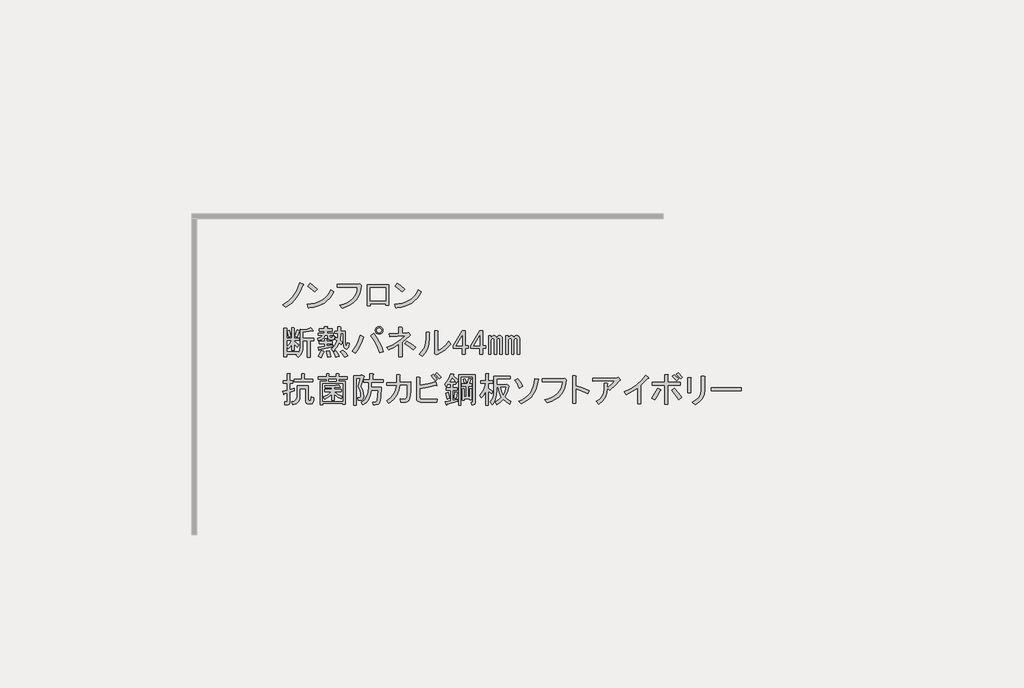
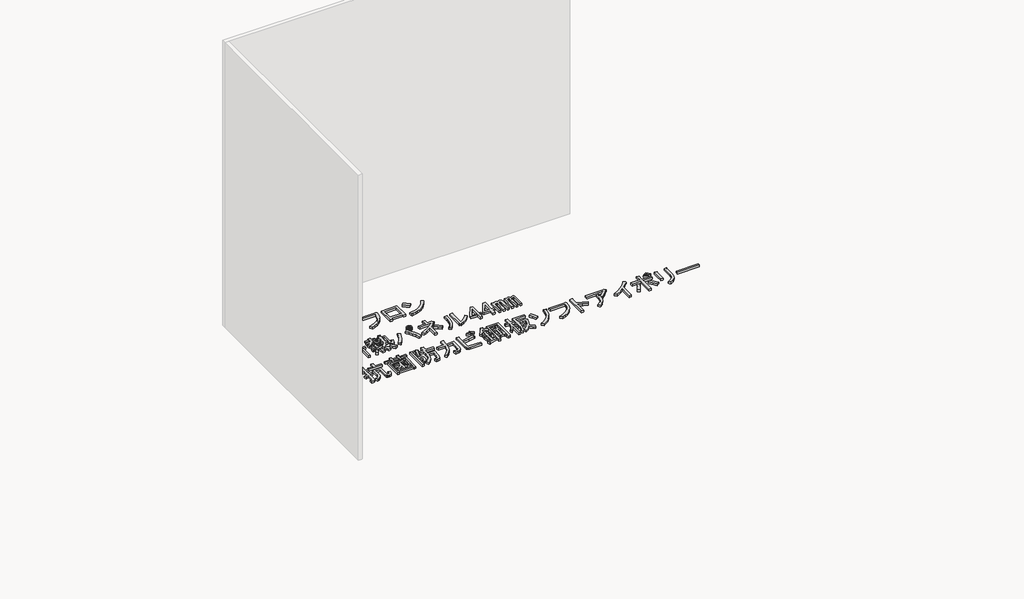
# One storey, part 72 of 117: 1 proxy.
"""IFC4 building model written with IfcOpenShell, lengths in millimetres."""

from ifc_helpers import new_model, si_unit, frame, origin, place, context, project, spatial, polyline, outline, extrude, element, save

model = new_model("IFC4")

# Units and contexts
model_context = context("Model", 3, world=origin())
ifc_project = project(units=[si_unit("LENGTHUNIT", "METRE", prefix="MILLI")], contexts=[model_context])

# Site, building, storey
site = spatial("IfcSite", under=ifc_project)
building = spatial("IfcBuilding", under=site)
storey = spatial("IfcBuildingStorey", under=building, Name="レベル 1", Elevation=500.0)

# Proxy
placement = place(None, origin())
element("IfcBuildingElementProxy", 1, Name="200㎜\u3000MS Pゴシック", ObjectType="200㎜\u3000MS Pゴシック", at=placement, inside=storey, context=model_context, shape_type="SweptSolid", body=[
    extrude(outline(polyline([(-7056.3293015, 11392.9503118), (-7081.9047498, 11333.1784775), (-7110.353844, 11287.2001434), (-7152.0217093, 11241.7965385), (-7201.1610538, 11204.439142), (-7228.7480543, 11226.2788507), (-7181.0455327, 11256.7394971), (-7141.3892195, 11295.2463519), (-7124.0036619, 11319.1694538), (-7108.6296565, 11347.2593423), (-7095.2672031, 11379.5160173), (-7083.9163019, 11415.9394788), (-7052.8809264, 11402.1459786), (-7049.7199159, 11397.5481452), (-7056.3293015, 11392.9503118)])), frame((0.0, 0.0, 500.0), z_axis=(0.0, 0.0, 1.0), x_axis=(1.0, 0.0, 0.0)), (0.0, 0.0, 1.0), 25.0),
    extrude(outline(polyline([(-6956.6022948, 11337.7763109), (-7015.2246708, 11384.9041033), (-6995.6838788, 11409.0427287), (-6968.3842429, 11389.2145721), (-6934.7625862, 11359.6160196), (-6956.6022948, 11337.7763109)])), frame((0.0, 0.0, 500.0), z_axis=(0.0, 0.0, 1.0), x_axis=(1.0, 0.0, 0.0)), (0.0, 0.0, 1.0), 25.0),
    extrude(outline(polyline([(-6794.5286672, 11337.7763109), (-6811.052131, 11308.034076), (-6830.1618761, 11282.0275808), (-6851.8579025, 11259.7568252), (-6876.1402102, 11241.2218093), (-6903.0087992, 11226.422533), (-6932.4636694, 11215.3589964), (-6964.504821, 11208.0311994), (-6999.1322539, 11204.439142), (-7004.8795456, 11196.3929336), (-7010.6268374, 11202.1402253), (-7019.8225042, 11232.0261425), (-6983.9917321, 11234.7022252), (-6951.2142088, 11241.0062859), (-6921.4899342, 11250.9383244), (-6894.8189084, 11264.4983409), (-6871.2011313, 11281.6863354), (-6850.636603, 11302.5023077), (-6833.1253234, 11326.946258), (-6818.6672926, 11355.0181862), (-6794.5286672, 11337.7763109)])), frame((0.0, 0.0, 500.0), z_axis=(0.0, 0.0, 1.0), x_axis=(1.0, 0.0, 0.0)), (0.0, 0.0, 1.0), 25.0),
    extrude(outline(polyline([(-6743.7685864, 11222.8304757), (-6709.985287, 11232.5110702), (-6680.4765359, 11244.8857078), (-6655.242333, 11259.9543884), (-6634.2826783, 11277.717112), (-6617.597572, 11298.1738786), (-6605.1870138, 11321.3246882), (-6597.0510039, 11347.1695409), (-6593.1895423, 11375.7084365), (-6765.6082951, 11375.7084365), (-6765.6082951, 11400.9965202), (-6590.8906256, 11400.9965202), (-6574.7982086, 11404.4448953), (-6562.1541668, 11392.9503118), (-6565.674383, 11356.4550091), (-6573.9361149, 11323.4080815), (-6586.9393625, 11293.8095289), (-6604.6841258, 11267.6593514), (-6627.1704048, 11244.957549), (-6654.3981995, 11225.7041216), (-6686.3675099, 11209.8990692), (-6723.078336, 11197.5423919), (-6743.7685864, 11222.8304757)])), frame((0.0, 0.0, 500.0), z_axis=(0.0, 0.0, 1.0), x_axis=(1.0, 0.0, 0.0)), (0.0, 0.0, 1.0), 25.0),
    extrude(outline(polyline([(-6329.044013, 11223.979934), (-6355.4815551, 11223.979934), (-6355.4815551, 11236.6239759), (-6483.0714321, 11236.6239759), (-6483.0714321, 11218.2326423), (-6509.5089742, 11218.2326423), (-6509.5089742, 11397.5481452), (-6329.044013, 11397.5481452), (-6329.044013, 11223.979934)]), holes=[polyline([(-6483.0714321, 11372.2600614), (-6483.0714321, 11261.9120596), (-6355.4815551, 11261.9120596), (-6355.4815551, 11372.2600614), (-6483.0714321, 11372.2600614)])]), frame((0.0, 0.0, 500.0), z_axis=(0.0, 0.0, 1.0), x_axis=(1.0, 0.0, 0.0)), (0.0, 0.0, 1.0), 25.0),
    extrude(outline(polyline([(-6052.9900951, 11337.7763109), (-6069.5135589, 11308.034076), (-6088.623304, 11282.0275808), (-6110.3193304, 11259.7568252), (-6134.6016381, 11241.2218093), (-6161.4702271, 11226.422533), (-6190.9250974, 11215.3589964), (-6222.9662489, 11208.0311994), (-6257.5936818, 11204.439142), (-6263.3409736, 11196.3929336), (-6269.0882653, 11202.1402253), (-6278.2839321, 11232.0261425), (-6242.4531601, 11234.7022252), (-6209.6756367, 11241.0062859), (-6179.9513622, 11250.9383244), (-6153.2803363, 11264.4983409), (-6129.6625593, 11281.6863354), (-6109.0980309, 11302.5023077), (-6091.5867514, 11326.946258), (-6077.1287205, 11355.0181862), (-6052.9900951, 11337.7763109)])), frame((0.0, 0.0, 500.0), z_axis=(0.0, 0.0, 1.0), x_axis=(1.0, 0.0, 0.0)), (0.0, 0.0, 1.0), 25.0),
    extrude(outline(polyline([(-6215.0637228, 11337.7763109), (-6273.6860987, 11384.9041033), (-6254.1453067, 11409.0427287), (-6226.8456709, 11389.2145721), (-6193.2240141, 11359.6160196), (-6215.0637228, 11337.7763109)])), frame((0.0, 0.0, 500.0), z_axis=(0.0, 0.0, 1.0), x_axis=(1.0, 0.0, 0.0)), (0.0, 0.0, 1.0), 25.0),
    extrude(outline(polyline([(-7122.9978859, 10960.7654779), (-7105.7560106, 11013.6405621), (-7085.0657603, 11007.8932704), (-7083.3415727, 11004.7322599), (-7087.364677, 11002.1459786), (-7104.6065522, 10953.8687278), (-7122.9978859, 10960.7654779)])), frame((0.0, 0.0, 500.0), z_axis=(0.0, 0.0, 1.0), x_axis=(1.0, 0.0, 0.0)), (0.0, 0.0, 1.0), 25.0),
    extrude(outline(polyline([(-6968.9704667, 11009.0427287), (-6970.6946542, 11004.4448953), (-6978.1661335, 11006.743812), (-7055.1798431, 10994.0997701), (-7055.1798431, 10944.673061), (-6963.2231749, 10944.673061), (-6963.2231749, 10922.8333523), (-6994.2585505, 10922.8333523), (-6994.2585505, 10782.5994334), (-7017.2477175, 10782.5994334), (-7017.2477175, 10922.8333523), (-7055.1798431, 10922.8333523), (-7055.1798431, 10873.4066432), (-7057.7661244, 10845.6041193), (-7065.5249683, 10820.8189236), (-7078.4563747, 10799.051056), (-7096.5603438, 10780.3005167), (-7113.8022191, 10799.8413086), (-7103.4570939, 10809.0369755), (-7193.1148454, 10809.0369755), (-7193.1148454, 10787.1972668), (-7216.1040124, 10787.1972668), (-7216.1040124, 11026.284604), (-7194.2643037, 11026.284604), (-7189.3791057, 11023.9856873), (-7193.1148454, 11019.3878539), (-7193.1148454, 10943.5236026), (-7150.5848863, 10943.5236026), (-7150.5848863, 11030.8824374), (-7132.1935527, 11030.8824374), (-7127.3083547, 11028.5835207), (-7131.0440943, 11023.9856873), (-7131.0440943, 10943.5236026), (-7087.364677, 10943.5236026), (-7087.364677, 10925.132269), (-7131.0440943, 10925.132269), (-7131.0440943, 10915.9366022), (-7090.813052, 10889.4990601), (-7104.6065522, 10867.6593514), (-7131.0440943, 10894.0968935), (-7131.0440943, 10841.2218093), (-7150.5848863, 10841.2218093), (-7150.5848863, 10889.4990601), (-7163.8036574, 10869.6709035), (-7178.1718868, 10853.8658512), (-7190.8159287, 10872.2571848), (-7168.97622, 10896.3958102), (-7151.7343447, 10925.132269), (-7193.1148454, 10925.132269), (-7193.1148454, 10830.8766841), (-7095.4108854, 10830.8766841), (-7095.4108854, 10817.0831839), (-7082.479479, 10841.2218093), (-7078.1690102, 10874.5561015), (-7078.1690102, 11019.3878539), (-7056.3293015, 11013.6405621), (-7020.1213634, 11021.1120414), (-6989.660717, 11034.3308125), (-6968.9704667, 11009.0427287)])), frame((0.0, 0.0, 500.0), z_axis=(0.0, 0.0, 1.0), x_axis=(1.0, 0.0, 0.0)), (0.0, 0.0, 1.0), 25.0),
    extrude(outline(polyline([(-7177.0224284, 10952.7192695), (-7189.6664703, 11003.2954369), (-7170.1256783, 11010.1921871), (-7162.3668344, 10986.0535617), (-7157.4816364, 10959.6160196), (-7177.0224284, 10952.7192695)])), frame((0.0, 0.0, 500.0), z_axis=(0.0, 0.0, 1.0), x_axis=(1.0, 0.0, 0.0)), (0.0, 0.0, 1.0), 25.0),
    extrude(outline(polyline([(-6878.1632569, 10832.0261425), (-6874.7148818, 10827.1409445), (-6880.4621736, 10823.979934), (-6890.2325696, 10798.4044857), (-6901.1524239, 10779.1510583), (-6924.141591, 10790.6456418), (-6911.4975491, 10814.209538), (-6901.1524239, 10841.2218093), (-6878.1632569, 10832.0261425)])), frame((0.0, 0.0, 500.0), z_axis=(0.0, 0.0, 1.0), x_axis=(1.0, 0.0, 0.0)), (0.0, 0.0, 1.0), 25.0),
    extrude(outline(polyline([(-6833.3343812, 10836.6239759), (-6823.2766206, 10809.32434), (-6818.3914226, 10787.1972668), (-6847.1278814, 10781.449975), (-6849.7141627, 10803.0023191), (-6857.4730066, 10833.1756008), (-6833.3343812, 10836.6239759)])), frame((0.0, 0.0, 500.0), z_axis=(0.0, 0.0, 1.0), x_axis=(1.0, 0.0, 0.0)), (0.0, 0.0, 1.0), 25.0),
    extrude(outline(polyline([(-6718.388546, 10842.3712677), (-6693.6751914, 10821.1062881), (-6674.7091286, 10796.3929336), (-6701.1466707, 10781.449975), (-6720.4000981, 10811.0485276), (-6739.0787963, 10830.8766841), (-6718.388546, 10842.3712677)])), frame((0.0, 0.0, 500.0), z_axis=(0.0, 0.0, 1.0), x_axis=(1.0, 0.0, 0.0)), (0.0, 0.0, 1.0), 25.0),
    extrude(outline(polyline([(-6777.0109219, 10783.7488917), (-6785.344495, 10808.4622463), (-6798.8506306, 10829.7272258), (-6778.1603803, 10837.7734343), (-6761.2058696, 10816.2210902), (-6749.4239215, 10792.9445585), (-6777.0109219, 10783.7488917)])), frame((0.0, 0.0, 500.0), z_axis=(0.0, 0.0, 1.0), x_axis=(1.0, 0.0, 0.0)), (0.0, 0.0, 1.0), 25.0),
    extrude(outline(polyline([(-6916.0953825, 10846.9691011), (-6918.1069346, 10842.0839031), (-6921.8426743, 10843.520726), (-6927.589966, 10867.6593514), (-6872.4159651, 10875.7055599), (-6872.4159651, 10898.6947269), (-6916.0953825, 10898.6947269), (-6916.0953825, 10917.0860605), (-6872.4159651, 10917.0860605), (-6872.4159651, 10940.0752276), (-6854.0246315, 10940.0752276), (-6849.1394335, 10937.7763109), (-6852.8751732, 10933.1784775), (-6852.8751732, 10917.0860605), (-6808.0462974, 10917.0860605), (-6808.0462974, 10898.6947269), (-6852.8751732, 10898.6947269), (-6852.8751732, 10879.1539349), (-6802.2990057, 10888.3496017), (-6802.2990057, 10872.2571848), (-6916.0953825, 10846.9691011)])), frame((0.0, 0.0, 500.0), z_axis=(0.0, 0.0, 1.0), x_axis=(1.0, 0.0, 0.0)), (0.0, 0.0, 1.0), 25.0),
    extrude(outline(polyline([(-6845.978423, 10968.8116864), (-6871.2665068, 10968.8116864), (-6875.8643402, 10951.3542877), (-6886.2094654, 10938.0636755), (-6902.3018823, 10928.9398498), (-6924.141591, 10923.9828107), (-6928.7394244, 10943.5236026), (-6903.4513406, 10952.1445403), (-6895.9798614, 10959.4723373), (-6891.9567571, 10968.8116864), (-6927.589966, 10968.8116864), (-6927.589966, 10987.20302), (-6873.5654235, 10987.20302), (-6873.5654235, 11004.4448953), (-6917.2448409, 11004.4448953), (-6917.2448409, 11022.8362289), (-6873.5654235, 11022.8362289), (-6873.5654235, 11041.2275626), (-6851.7257148, 11041.2275626), (-6846.8405168, 11038.9286459), (-6850.5762564, 11034.3308125), (-6850.5762564, 11022.8362289), (-6808.0462974, 11022.8362289), (-6808.0462974, 11004.4448953), (-6850.5762564, 11004.4448953), (-6850.5762564, 10987.20302), (-6797.7011723, 10987.20302), (-6797.7011723, 10968.8116864), (-6826.4376311, 10968.8116864), (-6826.4376311, 10956.1676445), (-6825.0008081, 10950.9950819), (-6820.6903393, 10949.2708944), (-6810.3452141, 10949.2708944), (-6806.6094745, 10952.4319049), (-6806.8968391, 10961.9149363), (-6787.3560471, 10959.6160196), (-6790.229693, 10938.0636755), (-6795.5459378, 10932.6755894), (-6803.448464, 10930.8795608), (-6827.5870894, 10930.8795608), (-6841.3805896, 10935.7647588), (-6845.978423, 10950.4203528), (-6845.978423, 10968.8116864)])), frame((0.0, 0.0, 500.0), z_axis=(0.0, 0.0, 1.0), x_axis=(1.0, 0.0, 0.0)), (0.0, 0.0, 1.0), 25.0),
    extrude(outline(polyline([(-6714.9401709, 10986.0535617), (-6736.7798796, 10986.0535617), (-6741.377713, 10928.5806441), (-6721.836921, 10910.1893104), (-6732.1820462, 10888.3496017), (-6748.2744631, 10904.4420187), (-6767.5278905, 10866.7972576), (-6797.7011723, 10834.3250592), (-6814.9430475, 10855.0153095), (-6799.8564067, 10866.9409399), (-6786.7813179, 10882.0275808), (-6775.7177813, 10900.2752321), (-6766.6657967, 10921.683894), (-6783.907672, 10936.6268525), (-6775.8614636, 10953.8687278), (-6762.0679633, 10943.5236026), (-6759.7690466, 10986.0535617), (-6787.3560471, 10986.0535617), (-6787.3560471, 11004.4448953), (-6759.7690466, 11004.4448953), (-6759.7690466, 11038.9286459), (-6737.9293379, 11038.9286459), (-6733.04414, 11036.6297292), (-6736.7798796, 11032.0318957), (-6736.7798796, 11004.4448953), (-6695.3993789, 11004.4448953), (-6695.3993789, 10907.8903937), (-6691.9510039, 10883.7517683), (-6688.7181523, 10881.7402162), (-6685.9163475, 10884.9012267), (-6681.6058787, 10906.7409354), (-6662.0650867, 10899.8441853), (-6666.591079, 10873.0474374), (-6674.421764, 10857.0268616), (-6685.5571418, 10851.7824579), (-6699.9972123, 10857.3142262), (-6706.5347567, 10864.6420232), (-6711.2044313, 10876.280289), (-6714.9401709, 10912.4882271), (-6714.9401709, 10986.0535617)])), frame((0.0, 0.0, 500.0), z_axis=(0.0, 0.0, 1.0), x_axis=(1.0, 0.0, 0.0)), (0.0, 0.0, 1.0), 25.0),
    extrude(outline(polyline([(-6456.3120417, 10983.754645), (-6429.6589762, 10947.0438188), (-6407.1726971, 10909.3272167), (-6388.8532047, 10870.6048384), (-6374.7004987, 10830.8766841), (-6405.7358742, 10820.531559), (-6421.1817208, 10863.6362472), (-6438.7828018, 10902.143102), (-6458.5391173, 10936.0521234), (-6480.4506671, 10965.3633113), (-6456.3120417, 10983.754645)])), frame((0.0, 0.0, 500.0), z_axis=(0.0, 0.0, 1.0), x_axis=(1.0, 0.0, 0.0)), (0.0, 0.0, 1.0), 25.0),
    extrude(outline(polyline([(-6543.6708765, 10957.3171029), (-6539.6477722, 10951.8571757), (-6545.9697932, 10946.9719777), (-6557.8954236, 10911.5542922), (-6572.9820644, 10877.717112), (-6591.2297158, 10845.460437), (-6612.6383776, 10814.7842672), (-6639.0759197, 10832.0261425), (-6615.8712292, 10863.4925649), (-6596.8333252, 10896.9705394), (-6581.9622078, 10932.460066), (-6571.2578769, 10969.9611447), (-6543.6708765, 10957.3171029)])), frame((0.0, 0.0, 500.0), z_axis=(0.0, 0.0, 1.0), x_axis=(1.0, 0.0, 0.0)), (0.0, 0.0, 1.0), 25.0),
    extrude(outline(polyline([(-6410.3337076, 10978.0073532), (-6422.9777495, 10980.3062699), (-6433.3228747, 10987.20302), (-6440.2196248, 10997.5481452), (-6442.5185415, 11010.1921871), (-6440.2196248, 11022.8362289), (-6433.3228747, 11033.1813541), (-6422.9777495, 11040.0781042), (-6410.3337076, 11042.3770209), (-6397.6896657, 11040.0781042), (-6387.3445406, 11033.1813541), (-6380.4477905, 11022.8362289), (-6378.1488738, 11010.1921871), (-6380.4477905, 10997.5481452), (-6387.3445406, 10987.20302), (-6397.6896657, 10980.3062699), (-6410.3337076, 10978.0073532)]), holes=[polyline([(-6410.3337076, 10989.5019367), (-6402.0001346, 10990.9387597), (-6395.390749, 10995.2492285), (-6391.0802802, 11001.858614), (-6389.6434573, 11010.1921871), (-6391.0802802, 11018.5257601), (-6395.390749, 11025.1351456), (-6402.0001346, 11029.4456145), (-6410.3337076, 11030.8824374), (-6418.6672807, 11029.4456145), (-6425.2766662, 11025.1351456), (-6429.587135, 11018.5257601), (-6431.023958, 11010.1921871), (-6429.587135, 11001.858614), (-6425.2766662, 10995.2492285), (-6418.6672807, 10990.9387597), (-6410.3337076, 10989.5019367)])]), frame((0.0, 0.0, 500.0), z_axis=(0.0, 0.0, 1.0), x_axis=(1.0, 0.0, 0.0)), (0.0, 0.0, 1.0), 25.0),
    extrude(outline(polyline([(-6120.6702029, 10844.6701844), (-6157.7402348, 10873.9813723), (-6190.7871624, 10895.2463519), (-6173.5452871, 10917.0860605), (-6134.7510677, 10893.8095289), (-6101.1294109, 10867.6593514), (-6120.6702029, 10844.6701844)])), frame((0.0, 0.0, 500.0), z_axis=(0.0, 0.0, 1.0), x_axis=(1.0, 0.0, 0.0)), (0.0, 0.0, 1.0), 25.0),
    extrude(outline(polyline([(-6166.648537, 10988.3524784), (-6159.7517869, 10990.6513951), (-6147.107745, 10973.4095198), (-6145.9582866, 10967.3748634), (-6151.7055784, 10965.3633113), (-6214.9257878, 10909.0398521), (-6214.9257878, 10788.3467251), (-6241.3633299, 10788.3467251), (-6241.3633299, 10890.6485184), (-6281.5943722, 10866.5098931), (-6326.4232479, 10844.6701844), (-6345.9640399, 10865.3604347), (-6300.4167527, 10884.8293855), (-6259.1799343, 10907.6030291), (-6222.2535848, 10933.6813655), (-6189.637704, 10963.0643946), (-6319.5264978, 10957.3171029), (-6322.9748729, 10982.6051866), (-6241.3633299, 10984.9041033), (-6241.3633299, 11036.6297292), (-6218.3741628, 11036.6297292), (-6212.3395065, 11033.1813541), (-6214.9257878, 11027.4340623), (-6214.9257878, 10986.0535617), (-6166.648537, 10988.3524784)])), frame((0.0, 0.0, 500.0), z_axis=(0.0, 0.0, 1.0), x_axis=(1.0, 0.0, 0.0)), (0.0, 0.0, 1.0), 25.0),
    extrude(outline(polyline([(-6067.703162, 10806.7380587), (-6042.5587606, 10835.9774056), (-6024.5984738, 10868.5214452), (-6013.8223018, 10904.3701775), (-6010.2302444, 10943.5236026), (-6010.2302444, 10995.2492285), (-5986.091619, 10995.2492285), (-5980.3443273, 10991.8008534), (-5983.7927023, 10986.0535617), (-5983.7927023, 10944.673061), (-5987.6002831, 10898.9102504), (-5999.0230255, 10858.17632), (-6018.0609295, 10822.4712699), (-6044.713995, 10791.7951002), (-6067.703162, 10806.7380587)])), frame((0.0, 0.0, 500.0), z_axis=(0.0, 0.0, 1.0), x_axis=(1.0, 0.0, 0.0)), (0.0, 0.0, 1.0), 25.0),
    extrude(outline(polyline([(-5913.6757429, 10837.7734343), (-5888.8905471, 10849.9864292), (-5865.1111275, 10867.0846222), (-5842.3374839, 10889.0680132), (-5820.5696163, 10915.9366022), (-5804.4771994, 10894.0968935), (-5827.753731, 10866.2943696), (-5853.9039086, 10842.6586322), (-5882.9277319, 10823.1896814), (-5914.8252012, 10807.8875171), (-5924.020868, 10803.2896837), (-5942.4122017, 10817.0831839), (-5940.113285, 10822.8304757), (-5940.113285, 11007.8932704), (-5915.9746596, 11007.8932704), (-5910.2273678, 11004.4448953), (-5913.6757429, 10998.6976035), (-5913.6757429, 10837.7734343)])), frame((0.0, 0.0, 500.0), z_axis=(0.0, 0.0, 1.0), x_axis=(1.0, 0.0, 0.0)), (0.0, 0.0, 1.0), 25.0),
    extrude(outline(polyline([(-5704.4743228, 11006.743812), (-5678.0367807, 11006.743812), (-5678.0367807, 10880.3033933), (-5653.8981553, 10880.3033933), (-5653.8981553, 10858.4636846), (-5678.0367807, 10858.4636846), (-5678.0367807, 10807.8875171), (-5704.4743228, 10807.8875171), (-5704.4743228, 10858.4636846), (-5781.4880324, 10858.4636846), (-5781.4880324, 10881.4528516), (-5704.4743228, 11006.743812)]), holes=[polyline([(-5704.4743228, 10964.213853), (-5756.1999486, 10880.3033933), (-5704.4743228, 10880.3033933), (-5704.4743228, 10964.213853)])]), frame((0.0, 0.0, 500.0), z_axis=(0.0, 0.0, 1.0), x_axis=(1.0, 0.0, 0.0)), (0.0, 0.0, 1.0), 25.0),
    extrude(outline(polyline([(-5557.3436537, 11006.743812), (-5530.9061116, 11006.743812), (-5530.9061116, 10880.3033933), (-5506.7674862, 10880.3033933), (-5506.7674862, 10858.4636846), (-5530.9061116, 10858.4636846), (-5530.9061116, 10807.8875171), (-5557.3436537, 10807.8875171), (-5557.3436537, 10858.4636846), (-5634.3573633, 10858.4636846), (-5634.3573633, 10881.4528516), (-5557.3436537, 11006.743812)]), holes=[polyline([(-5557.3436537, 10964.213853), (-5609.0692796, 10880.3033933), (-5557.3436537, 10880.3033933), (-5557.3436537, 10964.213853)])]), frame((0.0, 0.0, 500.0), z_axis=(0.0, 0.0, 1.0), x_axis=(1.0, 0.0, 0.0)), (0.0, 0.0, 1.0), 25.0),
    extrude(outline(polyline([(-5463.0880689, 10806.7380587), (-5482.6288608, 10806.7380587), (-5482.6288608, 10964.213853), (-5463.0880689, 10964.213853), (-5463.0880689, 10946.9719777), (-5451.0187562, 10962.4896654), (-5437.7999851, 10967.662228), (-5428.6043183, 10966.2254051), (-5421.7075682, 10961.9149363), (-5414.8108181, 10948.121436), (-5401.8794116, 10962.77703), (-5388.373276, 10967.662228), (-5380.0397029, 10966.2254051), (-5373.4303174, 10961.9149363), (-5368.2577548, 10953.2939986), (-5366.5335673, 10941.2246859), (-5366.5335673, 10806.7380587), (-5386.0743593, 10806.7380587), (-5386.0743593, 10930.8795608), (-5388.6606406, 10940.3625922), (-5396.4194844, 10943.5236026), (-5406.7646096, 10938.9257692), (-5412.799266, 10930.3048316), (-5414.8108181, 10920.5344356), (-5414.8108181, 10806.7380587), (-5434.3516101, 10806.7380587), (-5434.3516101, 10930.8795608), (-5436.9378914, 10940.3625922), (-5444.6967352, 10943.5236026), (-5455.0418604, 10938.9257692), (-5461.0765167, 10930.3048316), (-5463.0880689, 10920.5344356), (-5463.0880689, 10806.7380587)])), frame((0.0, 0.0, 500.0), z_axis=(0.0, 0.0, 1.0), x_axis=(1.0, 0.0, 0.0)), (0.0, 0.0, 1.0), 25.0),
    extrude(outline(polyline([(-5241.2426069, 10967.662228), (-5232.9090339, 10966.2254051), (-5226.2996483, 10961.9149363), (-5221.1270858, 10953.2939986), (-5219.4028982, 10941.2246859), (-5219.4028982, 10806.7380587), (-5238.9436902, 10806.7380587), (-5238.9436902, 10930.8795608), (-5241.5299715, 10940.3625922), (-5249.2888154, 10943.5236026), (-5259.6339406, 10938.9257692), (-5265.6685969, 10930.3048316), (-5267.680149, 10920.5344356), (-5267.680149, 10806.7380587), (-5287.220941, 10806.7380587), (-5287.220941, 10930.8795608), (-5289.8072223, 10940.3625922), (-5297.5660662, 10943.5236026), (-5307.9111913, 10938.9257692), (-5313.9458477, 10930.3048316), (-5315.9573998, 10920.5344356), (-5315.9573998, 10806.7380587), (-5335.4981918, 10806.7380587), (-5335.4981918, 10964.213853), (-5315.9573998, 10964.213853), (-5315.9573998, 10946.9719777), (-5303.8880871, 10962.4896654), (-5290.6693161, 10967.662228), (-5281.4736492, 10966.2254051), (-5274.5768991, 10961.9149363), (-5267.680149, 10948.121436), (-5254.7487426, 10962.77703), (-5241.2426069, 10967.662228)])), frame((0.0, 0.0, 500.0), z_axis=(0.0, 0.0, 1.0), x_axis=(1.0, 0.0, 0.0)), (0.0, 0.0, 1.0), 25.0),
    extrude(outline(polyline([(-7010.3509674, 10538.9257692), (-7010.3509674, 10422.8304757), (-7008.3394153, 10415.9337256), (-7002.3047589, 10413.6348089), (-6995.4080088, 10413.6348089), (-6990.8101754, 10415.9337256), (-6988.5112587, 10422.8304757), (-6986.212342, 10445.8196427), (-6962.0737166, 10437.7734343), (-6964.3726333, 10414.7842672), (-6966.67155, 10403.2178425), (-6971.2693834, 10394.9561106), (-6978.1661335, 10389.9990715), (-6987.3618003, 10388.3467251), (-7009.201509, 10388.3467251), (-7019.7621576, 10389.6398658), (-7027.3054781, 10393.5192877), (-7031.8314703, 10399.9849909), (-7033.3401344, 10409.0369755), (-7033.3401344, 10517.0860605), (-7080.4679269, 10517.0860605), (-7080.4679269, 10451.5669345), (-7084.2036665, 10426.7098976), (-7095.4108854, 10406.1633296), (-7114.0895837, 10389.9272303), (-7140.2397612, 10378.0015999), (-7149.435428, 10403.2896837), (-7129.3199068, 10410.761163), (-7114.9516774, 10421.6810173), (-7106.3307398, 10436.0492467), (-7103.4570939, 10453.8658512), (-7103.4570939, 10538.9257692), (-7010.3509674, 10538.9257692)])), frame((0.0, 0.0, 500.0), z_axis=(0.0, 0.0, 1.0), x_axis=(1.0, 0.0, 0.0)), (0.0, 0.0, 1.0), 25.0),
    extrude(outline(polyline([(-7212.6556373, 10472.2571848), (-7216.1040124, 10466.2225285), (-7219.5523875, 10471.1077265), (-7227.5985959, 10494.0968935), (-7189.6664703, 10502.143102), (-7189.6664703, 10561.9149363), (-7223.0007625, 10561.9149363), (-7223.0007625, 10583.754645), (-7189.6664703, 10583.754645), (-7189.6664703, 10643.5264793), (-7167.8267616, 10643.5264793), (-7162.9415636, 10641.2275626), (-7166.6773033, 10636.6297292), (-7166.6773033, 10583.754645), (-7140.2397612, 10583.754645), (-7140.2397612, 10561.9149363), (-7166.6773033, 10561.9149363), (-7166.6773033, 10507.8903937), (-7131.0440943, 10518.2355189), (-7128.7451776, 10496.3958102), (-7166.6773033, 10484.9012267), (-7166.6773033, 10396.3929336), (-7170.4130429, 10384.3236209), (-7181.6202618, 10380.3005167), (-7208.0578039, 10380.3005167), (-7211.506179, 10405.5886004), (-7194.2643037, 10405.5886004), (-7190.8159287, 10406.7380587), (-7189.6664703, 10410.1864338), (-7189.6664703, 10479.1539349), (-7212.6556373, 10472.2571848)])), frame((0.0, 0.0, 500.0), z_axis=(0.0, 0.0, 1.0), x_axis=(1.0, 0.0, 0.0)), (0.0, 0.0, 1.0), 25.0),
    extrude(outline(polyline([(-7066.6744266, 10596.3986868), (-7066.6744266, 10642.3770209), (-7044.8347179, 10642.3770209), (-7039.9495199, 10640.0781042), (-7043.6852596, 10635.4802708), (-7043.6852596, 10596.3986868), (-6972.4188418, 10596.3986868), (-6972.4188418, 10574.5589781), (-7128.7451776, 10574.5589781), (-7128.7451776, 10596.3986868), (-7066.6744266, 10596.3986868)])), frame((0.0, 0.0, 500.0), z_axis=(0.0, 0.0, 1.0), x_axis=(1.0, 0.0, 0.0)), (0.0, 0.0, 1.0), 25.0),
    extrude(outline(polyline([(-6870.1170484, 10538.9257692), (-6804.0231932, 10542.6615089), (-6752.8722965, 10549.2708944), (-6742.5271714, 10535.4773942), (-6740.2282547, 10529.4427378), (-6747.1250048, 10529.7301024), (-6791.9538805, 10526.2817274), (-6791.9538805, 10509.0398521), (-6732.1820462, 10509.0398521), (-6732.1820462, 10490.6485184), (-6788.5055054, 10490.6485184), (-6757.1827653, 10466.2225285), (-6720.6874627, 10450.4174761), (-6728.7336711, 10428.5777674), (-6761.2058696, 10444.0954552), (-6791.9538805, 10469.9582681), (-6791.9538805, 10419.3821006), (-6811.4946725, 10419.3821006), (-6811.4946725, 10468.8088098), (-6836.4953916, 10446.1070073), (-6872.4159651, 10426.2788507), (-6881.611632, 10445.8196427), (-6842.8174126, 10465.6477993), (-6813.7935892, 10490.6485184), (-6871.2665068, 10490.6485184), (-6871.2665068, 10509.0398521), (-6811.4946725, 10509.0398521), (-6811.4946725, 10523.9828107), (-6865.519215, 10521.683894), (-6870.1170484, 10538.9257692)])), frame((0.0, 0.0, 500.0), z_axis=(0.0, 0.0, 1.0), x_axis=(1.0, 0.0, 0.0)), (0.0, 0.0, 1.0), 25.0),
    extrude(outline(polyline([(-6751.7228382, 10576.8578948), (-6696.5488373, 10576.8578948), (-6696.5488373, 10382.5994334), (-6716.0896293, 10382.5994334), (-6716.0896293, 10391.7951002), (-6888.5083821, 10391.7951002), (-6888.5083821, 10378.0015999), (-6908.0491741, 10378.0015999), (-6908.0491741, 10576.8578948), (-6855.1740899, 10576.8578948), (-6855.1740899, 10597.5481452), (-6925.2910493, 10597.5481452), (-6925.2910493, 10615.9394788), (-6855.1740899, 10615.9394788), (-6855.1740899, 10642.3770209), (-6836.7827562, 10642.3770209), (-6831.8975582, 10640.0781042), (-6835.6332979, 10635.4802708), (-6835.6332979, 10615.9394788), (-6771.2636302, 10615.9394788), (-6771.2636302, 10642.3770209), (-6752.8722965, 10642.3770209), (-6747.9870985, 10640.0781042), (-6751.7228382, 10635.4802708), (-6751.7228382, 10615.9394788), (-6678.1575036, 10615.9394788), (-6678.1575036, 10597.5481452), (-6751.7228382, 10597.5481452), (-6751.7228382, 10576.8578948)]), holes=[polyline([(-6888.5083821, 10558.4665612), (-6888.5083821, 10410.1864338), (-6716.0896293, 10410.1864338), (-6716.0896293, 10558.4665612), (-6888.5083821, 10558.4665612)]), polyline([(-6835.6332979, 10576.8578948), (-6771.2636302, 10576.8578948), (-6771.2636302, 10597.5481452), (-6835.6332979, 10597.5481452), (-6835.6332979, 10576.8578948)])]), frame((0.0, 0.0, 500.0), z_axis=(0.0, 0.0, 1.0), x_axis=(1.0, 0.0, 0.0)), (0.0, 0.0, 1.0), 25.0),
    extrude(outline(polyline([(-6542.5214181, 10479.1539349), (-6540.5817071, 10451.4950933), (-6545.1076994, 10431.7387779), (-6556.0993949, 10419.8849886), (-6573.5567936, 10415.9337256), (-6587.3502938, 10415.9337256), (-6591.9481272, 10437.7734343), (-6580.4535437, 10437.7734343), (-6572.1199707, 10439.9286687), (-6566.6600435, 10446.3943719), (-6564.0737622, 10457.1705439), (-6564.3611268, 10472.2571848), (-6571.2578769, 10499.2694561), (-6587.3502938, 10534.3279358), (-6568.9589602, 10605.5943537), (-6603.4427108, 10605.5943537), (-6603.4427108, 10376.8521416), (-6626.4318778, 10376.8521416), (-6626.4318778, 10627.4340623), (-6562.0622101, 10627.4340623), (-6559.7632934, 10632.0318957), (-6535.624668, 10619.3878539), (-6534.187845, 10615.6521142), (-6539.073043, 10613.6405621), (-6565.5105851, 10535.4773942), (-6549.9928974, 10503.0051957), (-6542.5214181, 10479.1539349)])), frame((0.0, 0.0, 500.0), z_axis=(0.0, 0.0, 1.0), x_axis=(1.0, 0.0, 0.0)), (0.0, 0.0, 1.0), 25.0),
    extrude(outline(polyline([(-6475.8528337, 10504.4420187), (-6483.0369484, 10461.2654893), (-6497.6925424, 10425.9914861), (-6519.8196156, 10398.6200091), (-6549.4181682, 10379.1510583), (-6560.9127517, 10402.1402253), (-6533.2539101, 10421.9683819), (-6513.4975947, 10450.4174761), (-6501.6438055, 10487.487508), (-6497.6925424, 10533.1784775), (-6497.6925424, 10571.1106031), (-6541.3719597, 10571.1106031), (-6541.3719597, 10592.9503118), (-6488.4968756, 10592.9503118), (-6488.4968756, 10641.2275626), (-6463.2087918, 10641.2275626), (-6457.1741355, 10637.7791875), (-6462.0593335, 10632.0318957), (-6462.0593335, 10592.9503118), (-6373.5510404, 10592.9503118), (-6373.5510404, 10571.1106031), (-6474.7033753, 10571.1106031), (-6474.7033753, 10526.2817274), (-6391.942374, 10526.2817274), (-6397.6896657, 10444.0954552), (-6405.7358742, 10399.8413086), (-6410.6210722, 10391.2922121), (-6418.3799161, 10385.1857146), (-6442.5185415, 10380.3005167), (-6460.9098751, 10380.3005167), (-6464.3582502, 10402.1402253), (-6447.1163749, 10402.1402253), (-6434.7596976, 10405.3012358), (-6427.5755829, 10414.7842672), (-6418.3799161, 10504.4420187), (-6475.8528337, 10504.4420187)])), frame((0.0, 0.0, 500.0), z_axis=(0.0, 0.0, 1.0), x_axis=(1.0, 0.0, 0.0)), (0.0, 0.0, 1.0), 25.0),
    extrude(outline(polyline([(-6170.096912, 10549.2708944), (-6235.6160381, 10546.9719777), (-6243.87777, 10500.706279), (-6261.7662156, 10459.6131429), (-6289.2813749, 10423.6925694), (-6326.4232479, 10392.9445585), (-6345.9640399, 10412.4853505), (-6310.9774013, 10440.7189213), (-6285.3301118, 10472.5445494), (-6269.0221715, 10507.9622349), (-6262.0535802, 10546.9719777), (-6343.6651232, 10544.673061), (-6345.9640399, 10567.662228), (-6260.9041219, 10569.9611447), (-6260.9041219, 10634.3308125), (-6236.7654965, 10634.3308125), (-6229.8687463, 10630.8824374), (-6234.4665798, 10625.1351456), (-6234.4665798, 10569.9611447), (-6143.6593699, 10573.4095198), (-6143.6593699, 10502.143102), (-6146.2456512, 10454.1532158), (-6154.0044951, 10422.8304757), (-6160.6138806, 10412.7727151), (-6170.096912, 10405.5886004), (-6182.4535893, 10401.2781316), (-6197.6839125, 10399.8413086), (-6225.2709129, 10399.8413086), (-6228.719288, 10428.5777674), (-6198.8333708, 10426.2788507), (-6184.752506, 10429.1524966), (-6176.9936622, 10437.7734343), (-6171.8210996, 10463.061518), (-6170.096912, 10502.143102), (-6170.096912, 10549.2708944)])), frame((0.0, 0.0, 500.0), z_axis=(0.0, 0.0, 1.0), x_axis=(1.0, 0.0, 0.0)), (0.0, 0.0, 1.0), 25.0),
    extrude(outline(polyline([(-5919.606948, 10546.9719777), (-5919.3195834, 10540.9373213), (-5929.9520731, 10543.5236026), (-5996.0459284, 10528.2932795), (-6065.5881587, 10517.0860605), (-6065.5881587, 10442.3712677), (-6061.852419, 10431.1640487), (-6050.6452001, 10427.4283091), (-5918.4574896, 10427.4283091), (-5920.7564063, 10402.1402253), (-6055.2430335, 10402.1402253), (-6071.3354504, 10404.0080952), (-6082.830034, 10409.6117046), (-6089.7267841, 10418.9510537), (-6092.0257008, 10432.0261425), (-6092.0257008, 10612.4911038), (-6069.0365337, 10612.4911038), (-6061.852419, 10609.0427287), (-6065.5881587, 10603.2954369), (-6065.5881587, 10544.673061), (-5992.3101887, 10556.4550091), (-5928.8026148, 10573.4095198), (-5919.606948, 10546.9719777)])), frame((0.0, 0.0, 500.0), z_axis=(0.0, 0.0, 1.0), x_axis=(1.0, 0.0, 0.0)), (0.0, 0.0, 1.0), 25.0),
    extrude(outline(polyline([(-5933.4004482, 10584.9041033), (-5969.0336571, 10625.1351456), (-5952.9412402, 10637.7791875), (-5917.3080313, 10597.5481452), (-5933.4004482, 10584.9041033)])), frame((0.0, 0.0, 500.0), z_axis=(0.0, 0.0, 1.0), x_axis=(1.0, 0.0, 0.0)), (0.0, 0.0, 1.0), 25.0),
    extrude(outline(polyline([(-5900.066156, 10600.9965202), (-5935.6993649, 10640.0781042), (-5921.9058647, 10652.7221461), (-5885.1231974, 10613.6405621), (-5900.066156, 10600.9965202)])), frame((0.0, 0.0, 500.0), z_axis=(0.0, 0.0, 1.0), x_axis=(1.0, 0.0, 0.0)), (0.0, 0.0, 1.0), 25.0),
    extrude(outline(polyline([(-5735.5096983, 10634.3308125), (-5595.2757793, 10634.3308125), (-5595.2757793, 10394.0940169), (-5599.011519, 10382.8867979), (-5610.2187379, 10379.1510583), (-5626.3111549, 10379.1510583), (-5630.9089883, 10400.990767), (-5619.4144047, 10400.990767), (-5615.9660297, 10402.1402253), (-5614.8165713, 10405.5886004), (-5614.8165713, 10615.9394788), (-5715.9689063, 10615.9394788), (-5715.9689063, 10376.8521416), (-5735.5096983, 10376.8521416), (-5735.5096983, 10634.3308125)])), frame((0.0, 0.0, 500.0), z_axis=(0.0, 0.0, 1.0), x_axis=(1.0, 0.0, 0.0)), (0.0, 0.0, 1.0), 25.0),
    extrude(outline(polyline([(-5747.0042818, 10486.050685), (-5744.4180005, 10482.8896746), (-5748.1537402, 10480.3033933), (-5756.1999486, 10433.1756008), (-5774.5912823, 10435.4745175), (-5768.8439905, 10489.4990601), (-5747.0042818, 10486.050685)])), frame((0.0, 0.0, 500.0), z_axis=(0.0, 0.0, 1.0), x_axis=(1.0, 0.0, 0.0)), (0.0, 0.0, 1.0), 25.0),
    extrude(outline(polyline([(-5824.0179914, 10484.9012267), (-5812.5234079, 10433.1756008), (-5833.2136582, 10427.4283091), (-5844.7082417, 10479.1539349), (-5824.0179914, 10484.9012267)])), frame((0.0, 0.0, 500.0), z_axis=(0.0, 0.0, 1.0), x_axis=(1.0, 0.0, 0.0)), (0.0, 0.0, 1.0), 25.0),
    extrude(outline(polyline([(-5750.4526569, 10565.3633113), (-5791.8331575, 10609.0427287), (-5813.6728662, 10569.9611447), (-5758.4988653, 10569.9611447), (-5758.4988653, 10551.5698111), (-5784.9364074, 10551.5698111), (-5784.9364074, 10522.8333523), (-5747.0042818, 10522.8333523), (-5747.0042818, 10504.4420187), (-5784.9364074, 10504.4420187), (-5784.9364074, 10417.0831839), (-5745.8548235, 10427.4283091), (-5743.5559068, 10407.8875171), (-5835.5125749, 10382.5994334), (-5837.8114916, 10376.8521416), (-5842.409325, 10380.3005167), (-5849.3060752, 10403.2896837), (-5804.4771994, 10412.4853505), (-5804.4771994, 10504.4420187), (-5842.409325, 10504.4420187), (-5842.409325, 10522.8333523), (-5804.4771994, 10522.8333523), (-5804.4771994, 10551.5698111), (-5826.3169081, 10551.5698111), (-5841.2598667, 10533.1784775), (-5853.9039086, 10553.8687278), (-5825.7421789, 10591.5134888), (-5801.0288244, 10642.3770209), (-5779.1891157, 10636.6297292), (-5775.7407406, 10632.8939895), (-5781.4880324, 10630.8824374), (-5782.6374907, 10627.4340623), (-5737.808615, 10589.5019367), (-5750.4526569, 10565.3633113)])), frame((0.0, 0.0, 500.0), z_axis=(0.0, 0.0, 1.0), x_axis=(1.0, 0.0, 0.0)), (0.0, 0.0, 1.0), 25.0),
    extrude(outline(polyline([(-5682.6346141, 10602.1459786), (-5675.4504994, 10586.9156554), (-5669.9905722, 10566.5127697), (-5687.2324475, 10560.7654779), (-5698.727031, 10597.5481452), (-5682.6346141, 10602.1459786)])), frame((0.0, 0.0, 500.0), z_axis=(0.0, 0.0, 1.0), x_axis=(1.0, 0.0, 0.0)), (0.0, 0.0, 1.0), 25.0),
    extrude(outline(polyline([(-5629.7595299, 10600.9965202), (-5627.1732486, 10597.5481452), (-5633.207905, 10594.0997701), (-5645.8519468, 10556.1676445), (-5625.1616965, 10556.1676445), (-5625.1616965, 10537.7763109), (-5656.197072, 10537.7763109), (-5656.197072, 10449.2680178), (-5641.2541134, 10449.2680178), (-5641.2541134, 10517.0860605), (-5625.1616965, 10517.0860605), (-5625.1616965, 10422.8304757), (-5641.2541134, 10422.8304757), (-5641.2541134, 10430.8766841), (-5687.2324475, 10430.8766841), (-5687.2324475, 10418.2326423), (-5703.3248644, 10418.2326423), (-5703.3248644, 10514.7871438), (-5687.2324475, 10514.7871438), (-5687.2324475, 10449.2680178), (-5672.2894889, 10449.2680178), (-5672.2894889, 10537.7763109), (-5707.9226978, 10537.7763109), (-5707.9226978, 10556.1676445), (-5661.9443638, 10556.1676445), (-5651.5992386, 10605.5943537), (-5629.7595299, 10600.9965202)])), frame((0.0, 0.0, 500.0), z_axis=(0.0, 0.0, 1.0), x_axis=(1.0, 0.0, 0.0)), (0.0, 0.0, 1.0), 25.0),
    extrude(outline(polyline([(-5506.7674862, 10376.8521416), (-5506.7674862, 10496.3958102), (-5524.5840907, 10462.1994242), (-5543.5501535, 10440.072351), (-5555.044737, 10460.7626013), (-5537.8028617, 10483.4644037), (-5524.0093615, 10507.8903937), (-5513.6642364, 10534.0405712), (-5506.7674862, 10561.9149363), (-5548.1479869, 10561.9149363), (-5548.1479869, 10583.754645), (-5506.7674862, 10583.754645), (-5506.7674862, 10643.5264793), (-5484.9277776, 10643.5264793), (-5480.0425796, 10641.2275626), (-5483.7783192, 10636.6297292), (-5483.7783192, 10583.754645), (-5445.8461936, 10583.754645), (-5445.8461936, 10561.9149363), (-5483.7783192, 10561.9149363), (-5483.7783192, 10521.683894), (-5445.8461936, 10495.2463519), (-5456.1913188, 10472.2571848), (-5483.7783192, 10495.2463519), (-5483.7783192, 10376.8521416), (-5506.7674862, 10376.8521416)])), frame((0.0, 0.0, 500.0), z_axis=(0.0, 0.0, 1.0), x_axis=(1.0, 0.0, 0.0)), (0.0, 0.0, 1.0), 25.0),
    extrude(outline(polyline([(-5424.0064849, 10405.5886004), (-5395.2700261, 10422.8304757), (-5373.4303174, 10444.6701844), (-5391.2469219, 10486.6254142), (-5401.0173179, 10527.4311857), (-5413.6613597, 10527.4311857), (-5413.6613597, 10503.2925603), (-5416.1039587, 10461.5528539), (-5423.4317557, 10427.1409445), (-5435.6447507, 10400.0568321), (-5452.7429437, 10380.3005167), (-5466.5364439, 10403.2896837), (-5453.4613552, 10420.6752413), (-5444.1220061, 10442.9459968), (-5438.5183966, 10470.1019504), (-5436.6505268, 10502.143102), (-5436.6505268, 10622.8362289), (-5299.8649829, 10622.8362289), (-5299.8649829, 10600.9965202), (-5413.6613597, 10600.9965202), (-5413.6613597, 10549.2708944), (-5334.3487334, 10549.2708944), (-5328.6014417, 10555.0181862), (-5309.0606497, 10541.2246859), (-5307.6238268, 10537.4889463), (-5312.5090247, 10533.1784775), (-5324.865702, 10486.6254142), (-5343.5444003, 10445.8196427), (-5324.5783374, 10427.4283091), (-5292.9682328, 10409.0369755), (-5302.1638996, 10384.8983501), (-5330.0382646, 10400.990767), (-5358.4873588, 10426.2788507), (-5382.9133488, 10401.8528608), (-5414.8108181, 10381.449975), (-5424.0064849, 10405.5886004)]), holes=[polyline([(-5379.1776092, 10527.4311857), (-5371.1314007, 10494.3842581), (-5358.4873588, 10466.5098931), (-5345.843317, 10492.6600706), (-5337.7971085, 10527.4311857), (-5379.1776092, 10527.4311857)])]), frame((0.0, 0.0, 500.0), z_axis=(0.0, 0.0, 1.0), x_axis=(1.0, 0.0, 0.0)), (0.0, 0.0, 1.0), 25.0),
    extrude(outline(polyline([(-5126.2967717, 10482.60231), (-5114.1556179, 10503.4362426), (-5104.1696984, 10530.3048316), (-5096.3390134, 10563.2080769), (-5090.6635628, 10602.1459786), (-5061.927104, 10597.5481452), (-5057.041906, 10593.8124055), (-5063.0765624, 10587.20302), (-5068.3209661, 10551.8571757), (-5077.1574272, 10519.3849772), (-5089.5859456, 10489.7864247), (-5105.6065214, 10463.061518), (-5121.6989383, 10444.0954552), (-5143.538647, 10425.1293924), (-5204.4599397, 10387.1972668), (-5225.15019, 10407.8875171), (-5194.4021791, 10423.7644106), (-5167.6772724, 10441.5091739), (-5144.9754699, 10461.121807), (-5126.2967717, 10482.60231)])), frame((0.0, 0.0, 500.0), z_axis=(0.0, 0.0, 1.0), x_axis=(1.0, 0.0, 0.0)), (0.0, 0.0, 1.0), 25.0),
    extrude(outline(polyline([(-5220.5523566, 10520.5344356), (-5240.9552423, 10559.9033842), (-5260.7833989, 10588.3524784), (-5235.4953152, 10602.1459786), (-5215.379794, 10573.4095198), (-5194.1148145, 10535.4773942), (-5220.5523566, 10520.5344356)])), frame((0.0, 0.0, 500.0), z_axis=(0.0, 0.0, 1.0), x_axis=(1.0, 0.0, 0.0)), (0.0, 0.0, 1.0), 25.0),
    extrude(outline(polyline([(-5004.6840781, 10422.8304757), (-4970.9007787, 10432.5110702), (-4941.3920276, 10444.8857078), (-4916.1578247, 10459.9543884), (-4895.19817, 10477.717112), (-4878.5130636, 10498.1738786), (-4866.1025055, 10521.3246882), (-4857.9664956, 10547.1695409), (-4854.105034, 10575.7084365), (-5026.5237868, 10575.7084365), (-5026.5237868, 10600.9965202), (-4851.8061172, 10600.9965202), (-4835.7137003, 10604.4448953), (-4823.0696584, 10592.9503118), (-4826.5898746, 10556.4550091), (-4834.8516066, 10523.4080815), (-4847.8548542, 10493.8095289), (-4865.5996175, 10467.6593514), (-4888.0858965, 10444.957549), (-4915.3136912, 10425.7041216), (-4947.2830016, 10409.8990692), (-4983.9938277, 10397.5423919), (-5004.6840781, 10422.8304757)])), frame((0.0, 0.0, 500.0), z_axis=(0.0, 0.0, 1.0), x_axis=(1.0, 0.0, 0.0)), (0.0, 0.0, 1.0), 25.0),
    extrude(outline(polyline([(-4742.8374655, 10542.3741443), (-4686.2266416, 10523.4080815), (-4629.0410886, 10498.6947269), (-4642.8345888, 10472.2571848), (-4698.2959543, 10498.1199977), (-4742.8374655, 10513.6376855), (-4742.8374655, 10394.0940169), (-4769.2750076, 10394.0940169), (-4769.2750076, 10623.9856873), (-4746.2858405, 10623.9856873), (-4738.5269967, 10621.1120414), (-4742.8374655, 10614.7900205), (-4742.8374655, 10542.3741443)])), frame((0.0, 0.0, 500.0), z_axis=(0.0, 0.0, 1.0), x_axis=(1.0, 0.0, 0.0)), (0.0, 0.0, 1.0), 25.0),
    extrude(outline(polyline([(-4474.5538861, 10521.683894), (-4478.3614669, 10480.4470756), (-4492.083126, 10444.0954552), (-4515.7188633, 10412.6290328), (-4549.268679, 10386.0478084), (-4568.809471, 10407.8875171), (-4539.1390773, 10428.1467206), (-4517.9459389, 10452.1416637), (-4505.2300559, 10479.8723464), (-4500.9914282, 10511.3387688), (-4500.9914282, 10560.7654779), (-4476.8528028, 10560.7654779), (-4471.1055111, 10558.1791966), (-4474.5538861, 10552.7192695), (-4474.5538861, 10522.8333523), (-4438.0585834, 10553.5813632), (-4411.3336767, 10583.754645), (-4598.6953881, 10576.8578948), (-4600.9943048, 10603.2954369), (-4391.7928848, 10609.0427287), (-4383.7466763, 10611.3416454), (-4366.504801, 10590.6513951), (-4366.2174364, 10587.4903846), (-4372.2520928, 10587.20302), (-4410.1842184, 10543.8109672), (-4455.0130941, 10503.2925603), (-4474.5538861, 10521.683894)])), frame((0.0, 0.0, 500.0), z_axis=(0.0, 0.0, 1.0), x_axis=(1.0, 0.0, 0.0)), (0.0, 0.0, 1.0), 25.0),
    extrude(outline(polyline([(-4332.7107255, 10488.3496017), (-4276.0280605, 10516.2239668), (-4226.6731925, 10549.2708944), (-4184.6461215, 10587.4903846), (-4149.9468475, 10630.8824374), (-4128.1071388, 10612.4911038), (-4125.5208575, 10606.4564474), (-4136.1533473, 10602.1459786), (-4161.1540664, 10573.1221552), (-4192.4768065, 10543.5236026), (-4192.4768065, 10387.1972668), (-4218.9143486, 10387.1972668), (-4218.9143486, 10521.683894), (-4262.593766, 10492.0853414), (-4313.1699335, 10465.3604347), (-4332.7107255, 10488.3496017)])), frame((0.0, 0.0, 500.0), z_axis=(0.0, 0.0, 1.0), x_axis=(1.0, 0.0, 0.0)), (0.0, 0.0, 1.0), 25.0),
    extrude(outline(polyline([(-3908.6525502, 10521.683894), (-3872.4446121, 10479.7286641), (-3846.5817992, 10441.2218093), (-3871.869883, 10423.979934), (-3898.5947896, 10465.0730701), (-3930.4922589, 10503.2925603), (-3908.6525502, 10521.683894)])), frame((0.0, 0.0, 500.0), z_axis=(0.0, 0.0, 1.0), x_axis=(1.0, 0.0, 0.0)), (0.0, 0.0, 1.0), 25.0),
    extrude(outline(polyline([(-3963.8265511, 10571.1106031), (-3858.0763827, 10571.1106031), (-3858.0763827, 10545.8225193), (-3963.8265511, 10545.8225193), (-3963.8265511, 10386.0478084), (-3990.2640932, 10386.0478084), (-3990.2640932, 10545.8225193), (-4093.7153449, 10545.8225193), (-4093.7153449, 10571.1106031), (-3990.2640932, 10571.1106031), (-3990.2640932, 10635.4802708), (-3966.1254678, 10635.4802708), (-3959.2287177, 10632.0318957), (-3963.8265511, 10626.284604), (-3963.8265511, 10571.1106031)])), frame((0.0, 0.0, 500.0), z_axis=(0.0, 0.0, 1.0), x_axis=(1.0, 0.0, 0.0)), (0.0, 0.0, 1.0), 25.0),
    extrude(outline(polyline([(-4024.7478438, 10507.8903937), (-4022.4489271, 10503.0051957), (-4029.3456772, 10499.8441853), (-4048.8864692, 10461.0499659), (-4073.0250946, 10420.531559), (-4098.3131783, 10434.3250592), (-4071.8756362, 10476.8550182), (-4050.0359275, 10521.683894), (-4024.7478438, 10507.8903937)])), frame((0.0, 0.0, 500.0), z_axis=(0.0, 0.0, 1.0), x_axis=(1.0, 0.0, 0.0)), (0.0, 0.0, 1.0), 25.0),
    extrude(outline(polyline([(-3885.6633832, 10583.754645), (-3923.5955088, 10619.3878539), (-3909.8020086, 10633.1813541), (-3871.869883, 10598.6976035), (-3885.6633832, 10583.754645)])), frame((0.0, 0.0, 500.0), z_axis=(0.0, 0.0, 1.0), x_axis=(1.0, 0.0, 0.0)), (0.0, 0.0, 1.0), 25.0),
    extrude(outline(polyline([(-3853.4785493, 10599.8470619), (-3891.4106749, 10637.7791875), (-3876.4677164, 10650.4232294), (-3838.5355908, 10613.6405621), (-3853.4785493, 10599.8470619)])), frame((0.0, 0.0, 500.0), z_axis=(0.0, 0.0, 1.0), x_axis=(1.0, 0.0, 0.0)), (0.0, 0.0, 1.0), 25.0),
    extrude(outline(polyline([(-3650.9439877, 10505.591477), (-3655.972868, 10465.504117), (-3671.0595089, 10431.4514133), (-3696.2039103, 10403.433366), (-3731.4060723, 10381.449975), (-3754.3952394, 10400.990767), (-3721.1327883, 10420.531559), (-3697.2096864, 10444.6701844), (-3682.6259335, 10473.4066432), (-3677.3815298, 10506.7409354), (-3677.3815298, 10621.6867706), (-3653.2429044, 10621.6867706), (-3646.9208835, 10618.2383955), (-3650.9439877, 10612.4911038), (-3650.9439877, 10505.591477)])), frame((0.0, 0.0, 500.0), z_axis=(0.0, 0.0, 1.0), x_axis=(1.0, 0.0, 0.0)), (0.0, 0.0, 1.0), 25.0),
    extrude(outline(polyline([(-3769.338198, 10480.3033933), (-3795.7757401, 10480.3033933), (-3795.7757401, 10610.1921871), (-3770.4876563, 10610.1921871), (-3764.453, 10607.3185412), (-3769.338198, 10600.9965202), (-3769.338198, 10480.3033933)])), frame((0.0, 0.0, 500.0), z_axis=(0.0, 0.0, 1.0), x_axis=(1.0, 0.0, 0.0)), (0.0, 0.0, 1.0), 25.0),
    extrude(outline(polyline([(-3594.6205285, 10498.6947269), (-3594.6205285, 10523.9828107), (-3338.2913159, 10523.9828107), (-3338.2913159, 10498.6947269), (-3594.6205285, 10498.6947269)])), frame((0.0, 0.0, 500.0), z_axis=(0.0, 0.0, 1.0), x_axis=(1.0, 0.0, 0.0)), (0.0, 0.0, 1.0), 25.0),
])

save(model, "model.ifc")
